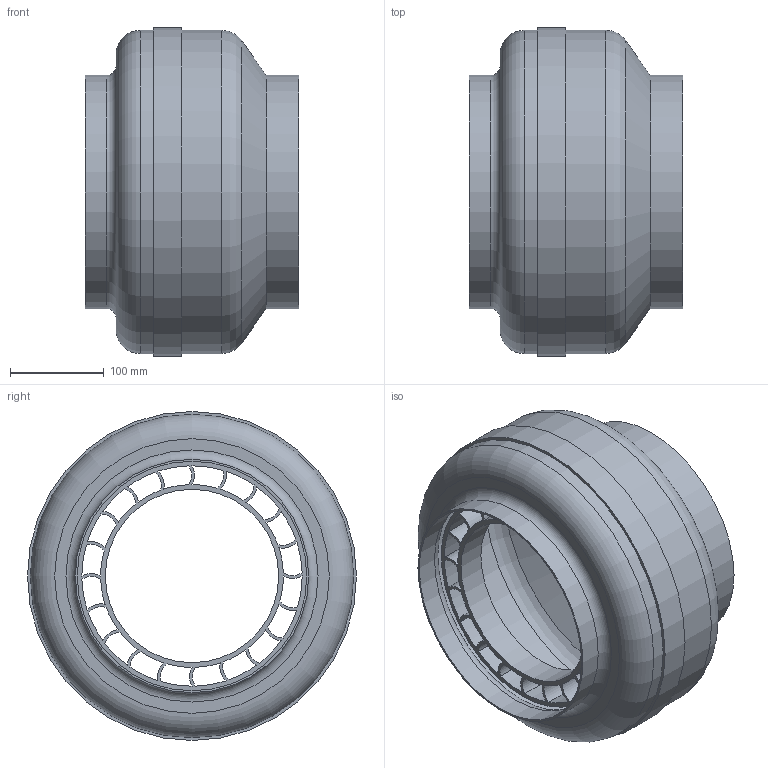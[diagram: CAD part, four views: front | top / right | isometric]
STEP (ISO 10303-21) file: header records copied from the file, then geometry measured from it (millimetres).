
FILE_DESCRIPTION(/* description */ (''),/* implementation_level */ '2;1');
FILE_NAME(/* name */ 'Z:\Output\RR_250_A-05652-022.stp',/* time_stamp */ '2017-07-19T17:21:52+02:00',/* author */ ('Engineering1'),/* organization */ (''),/* preprocessor_version */ 'ST-DEVELOPER v16.5',/* originating_system */ 'Autodesk Inventor 2017',/* authorisation */ '');
FILE_SCHEMA (('AUTOMOTIVE_DESIGN { 1 0 10303 214 3 1 1 }'));
Length unit declared in the file: millimetre
Products named in the file (1): RR-1
Bounding box: 228 x 351 x 351 mm (x, y, z)
Volume: 878165.3 mm3; surface area: 667513.9 mm2
Topology: 2 solids, 2 shells, 106 faces, 286 edges, 188 vertices
Faces by surface type: cylinder 90, plane 8, torus 6, cone 2
Full cylindrical faces by diameter (mm): 185 x1, 245 x3, 249 x2, 341 x1, 345 x2, 351 x1
Entity records: 3441 total; most frequent: DIRECTION 666, CARTESIAN_POINT 559, ORIENTED_EDGE 532, AXIS2_PLACEMENT_3D 293, EDGE_CURVE 266, CIRCLE 186, VERTEX_POINT 186, EDGE_LOOP 172
